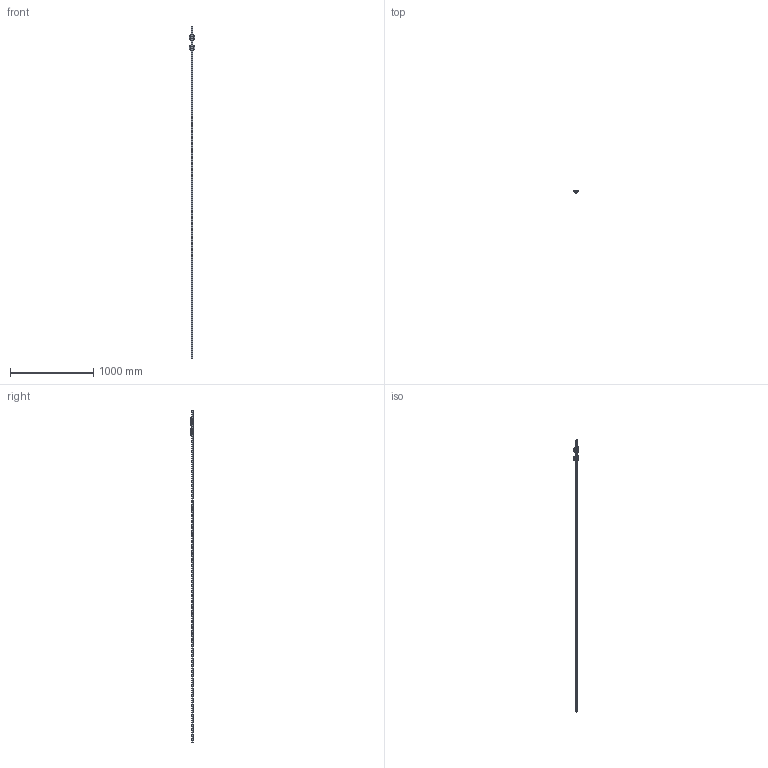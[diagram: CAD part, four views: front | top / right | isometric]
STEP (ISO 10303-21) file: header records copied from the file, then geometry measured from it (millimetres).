
FILE_DESCRIPTION((''),'2;1');
FILE_NAME('BRS20-A0_CUSTOMER_ASM_1__ASM_ASM','2020-11-23T12:07:47',('TWVS2025'),(''),'CREO PARAMETRIC BY PTC INC, 2018420','CREO PARAMETRIC BY PTC INC, 2018420','');
FILE_SCHEMA(('AUTOMOTIVE_DESIGN { 1 0 10303 214 1 1 1 1 }'));
Products named in the file (6): BRR20_CUSTOMER_1_1; BC-BRC20-A0_ASM_1_1; BC-BRD20-A0_ASM_1_1_ASM; BRS20-A0_CUSTOMER_ASM_1_ASM_1_ASM; BRS20-A0_CUSTOMER_ASM_ASM_1_ASM; BRS20-A0_CUSTOMER_ASM_1__ASM_ASM
Assembly tree (5 placements, depth 4):
  BRS20-A0_CUSTOMER_ASM_1__ASM_ASM
    BRS20-A0_CUSTOMER_ASM_ASM_1_ASM
      BRS20-A0_CUSTOMER_ASM_1_ASM_1_ASM
        BRR20_CUSTOMER_1_1
        BC-BRC20-A0_ASM_1_1
        BC-BRD20-A0_ASM_1_1_ASM
Bounding box: 62.95 x 30 x 4000 mm (x, y, z)
Volume: 1264023.7 mm3; surface area: 400984.7 mm2
Topology: 2 solids, 20 shells, 4283 faces, 12236 edges, 7998 vertices
Faces by surface type: plane 1856, cylinder 1238, cone 646, torus 274, bspline 221, sphere 19, extrusion 17, revolution 12
Entity records: 193608 total; most frequent: CARTESIAN_POINT 84349, ORIENTED_EDGE 24326, DIRECTION 20931, EDGE_CURVE 12190, VERTEX_POINT 7998, AXIS2_PLACEMENT_3D 7374, VECTOR 6171, LINE 6154
